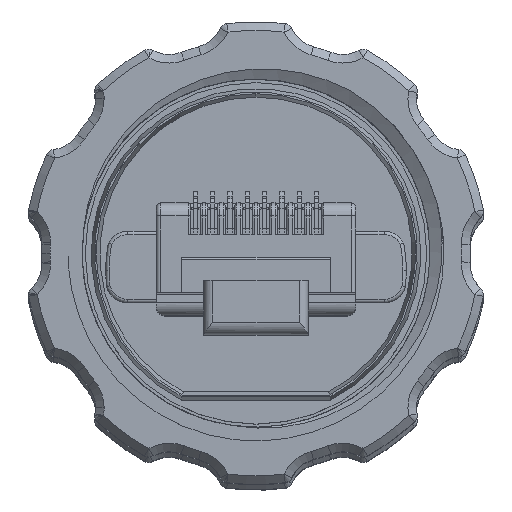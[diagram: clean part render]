
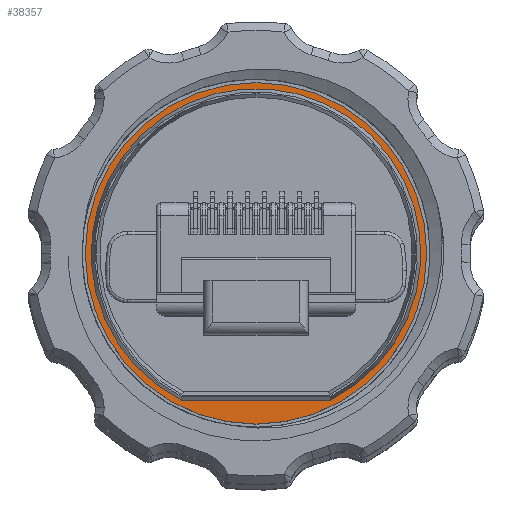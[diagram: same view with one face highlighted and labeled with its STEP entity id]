
A CAD part, top view. The second image highlights one B-rep face of the part: STEP entity #38357.
In plain terms, the highlighted planar face has unit normal (0, 0, 1).
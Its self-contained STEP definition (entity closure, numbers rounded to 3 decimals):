
#252 = PLANE ( 'NONE',  #8074 ) ;
#2029 = DIRECTION ( 'NONE',  ( 1., 0., 0. ) ) ;
#5149 = VERTEX_POINT ( 'NONE', #14877 ) ;
#5517 = EDGE_LOOP ( 'NONE', ( #45397, #30967 ) ) ;
#6304 = DIRECTION ( 'NONE',  ( 0., 0., 1. ) ) ;
#8074 = AXIS2_PLACEMENT_3D ( 'NONE', #39539, #30411, #17879 ) ;
#8224 = FACE_BOUND ( 'NONE', #5517, .T. ) ;
#9433 = CARTESIAN_POINT ( 'NONE',  ( 10., 0., 176. ) ) ;
#10957 = AXIS2_PLACEMENT_3D ( 'NONE', #32120, #45522, #54062 ) ;
#10990 = AXIS2_PLACEMENT_3D ( 'NONE', #47228, #30859, #22306 ) ;
#11747 = VERTEX_POINT ( 'NONE', #35169 ) ;
#13515 = CIRCLE ( 'NONE', #46278, 10. ) ;
#14877 = CARTESIAN_POINT ( 'NONE',  ( -10., 0., 176. ) ) ;
#16929 = EDGE_LOOP ( 'NONE', ( #44868, #47389 ) ) ;
#17601 = VERTEX_POINT ( 'NONE', #9433 ) ;
#17879 = DIRECTION ( 'NONE',  ( 0., -1., 0. ) ) ;
#19043 = EDGE_CURVE ( 'NONE', #17601, #5149, #20961, .T. ) ;
#19382 = EDGE_CURVE ( 'NONE', #11747, #47870, #35584, .T. ) ;
#20961 = CIRCLE ( 'NONE', #10957, 10. ) ;
#22145 = FACE_OUTER_BOUND ( 'NONE', #16929, .T. ) ;
#22306 = DIRECTION ( 'NONE',  ( 1., 0., 0. ) ) ;
#25793 = DIRECTION ( 'NONE',  ( 1., 0., 0. ) ) ;
#29865 = CARTESIAN_POINT ( 'NONE',  ( 4.377, -8.6, 176. ) ) ;
#30051 = CARTESIAN_POINT ( 'NONE',  ( -10.002, -8.6, 176. ) ) ;
#30411 = DIRECTION ( 'NONE',  ( 0., 0., -1. ) ) ;
#30859 = DIRECTION ( 'NONE',  ( 0., 0., -1. ) ) ;
#30967 = ORIENTED_EDGE ( 'NONE', *, *, #55802, .F. ) ;
#32120 = CARTESIAN_POINT ( 'NONE',  ( 0., 0., 176. ) ) ;
#35169 = CARTESIAN_POINT ( 'NONE',  ( -4.377, -8.6, 176. ) ) ;
#35584 = CIRCLE ( 'NONE', #10990, 9.65 ) ;
#37047 = VECTOR ( 'NONE', #25793, 1000. ) ;
#38357 = ADVANCED_FACE ( 'NONE', ( #22145, #8224 ), #252, .F. ) ;
#39539 = CARTESIAN_POINT ( 'NONE',  ( 0., 0., 176. ) ) ;
#41263 = EDGE_CURVE ( 'NONE', #5149, #17601, #13515, .T. ) ;
#44868 = ORIENTED_EDGE ( 'NONE', *, *, #41263, .T. ) ;
#45397 = ORIENTED_EDGE ( 'NONE', *, *, #19382, .T. ) ;
#45522 = DIRECTION ( 'NONE',  ( 0., 0., 1. ) ) ;
#46278 = AXIS2_PLACEMENT_3D ( 'NONE', #48763, #6304, #2029 ) ;
#47228 = CARTESIAN_POINT ( 'NONE',  ( 0., 0., 176. ) ) ;
#47389 = ORIENTED_EDGE ( 'NONE', *, *, #19043, .T. ) ;
#47484 = LINE ( 'NONE', #30051, #37047 ) ;
#47870 = VERTEX_POINT ( 'NONE', #29865 ) ;
#48763 = CARTESIAN_POINT ( 'NONE',  ( 0., 0., 176. ) ) ;
#54062 = DIRECTION ( 'NONE',  ( 1., 0., 0. ) ) ;
#55802 = EDGE_CURVE ( 'NONE', #11747, #47870, #47484, .T. ) ;
